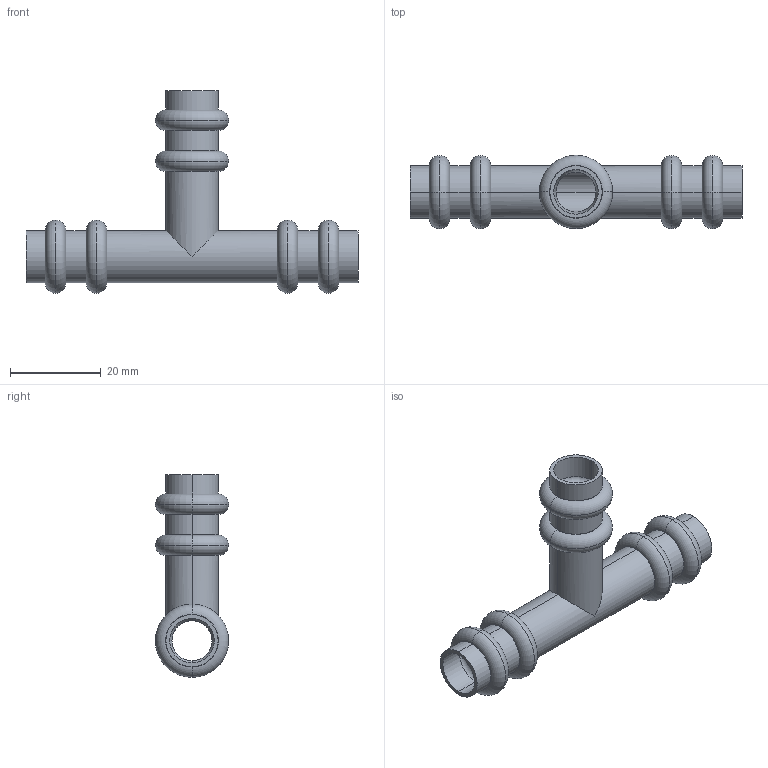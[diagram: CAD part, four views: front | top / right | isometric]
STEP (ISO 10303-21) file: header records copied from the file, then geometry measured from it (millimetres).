
FILE_DESCRIPTION(('starvars output'),'1');
FILE_NAME('cv20240422104938000011808.stp','10:49:38 2024/04/22',('Thomas Industrial Network Germany GmbH'),(' '),'Spatial InterOp 3D',' ',' ');
FILE_SCHEMA(('AUTOMOTIVE_DESIGN { 1 0 10303 214 3 1 1 }'));
Length unit declared in the file: millimetre
Products named in the file (1): 1
Bounding box: 73 x 16.1 x 44.55 mm (x, y, z)
Volume: 4273.7 mm3; surface area: 8767.2 mm2
Topology: 1 solids, 1 shells, 119 faces, 246 edges, 152 vertices
Faces by surface type: torus 48, cylinder 38, plane 27, cone 6
Entity records: 4216 total; most frequent: DIRECTION 686, CARTESIAN_POINT 518, ORIENTED_EDGE 492, AXIS2_PLACEMENT_3D 320, EDGE_CURVE 246, CIRCLE 192, VERTEX_POINT 152, EDGE_LOOP 146
